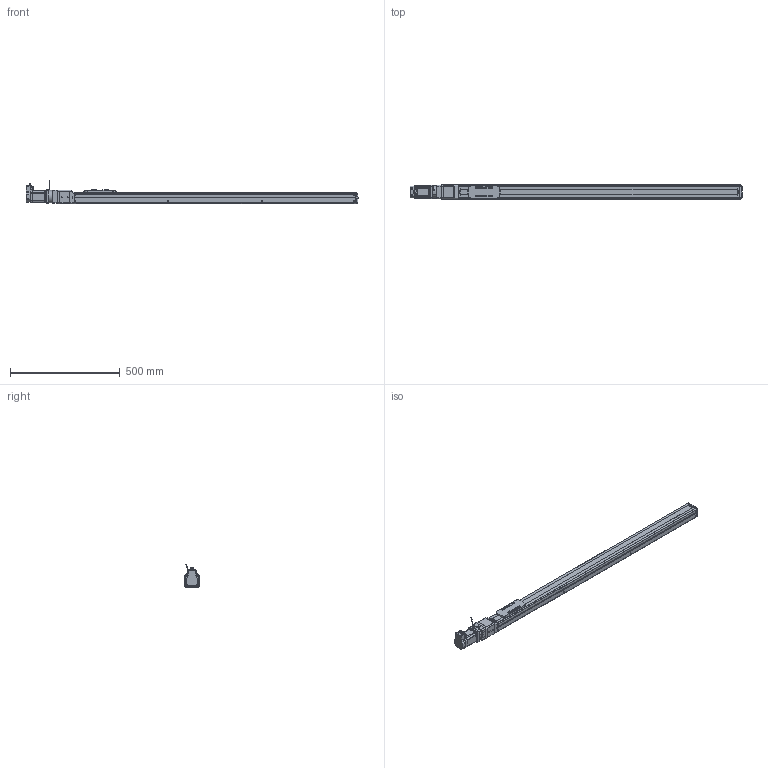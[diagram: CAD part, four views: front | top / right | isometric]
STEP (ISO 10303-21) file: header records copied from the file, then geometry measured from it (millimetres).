
FILE_DESCRIPTION(('FreeCAD Model'),'2;1');
FILE_NAME('Open CASCADE Shape Model','2023-08-03T16:41:48',('Author'),( ''),'Open CASCADE STEP processor 7.5','FreeCAD','Unknown');
FILE_SCHEMA(('AUTOMOTIVE_DESIGN { 1 0 10303 214 1 1 1 1 }'));
Length unit declared in the file: millimetre
Products named in the file (21): RMJ1211_BRK; Shapes; Shapes001; Shapes002; Shapes003; Shapes004; Shapes005; Shapes006; Shapes007; Shapes008; Shapes009; Shapes010; Shapes011; Shapes012; Body; BXW-03-10H-8_STEP; Body001; KSF6-20-1050-0-A0(0); KSF6---(Cover); KSF6-10-0050---(slider); KSF6-20-01050-A0 (01050A0No0)---(body)
Assembly tree (20 placements, depth 3):
  RMJ1211_BRK
    Shapes
    Shapes001
    Shapes002
    Shapes003
    Shapes004
    Shapes005
    Shapes006
    Shapes007
    Shapes008
    Shapes009
    Shapes010
    Shapes011
    Shapes012
    Body
    BXW-03-10H-8_STEP
    Body001
    KSF6-20-1050-0-A0(0)
      KSF6---(Cover)
      KSF6-10-0050---(slider)
      KSF6-20-01050-A0 (01050A0No0)---(body)
Bounding box: 1510.47 x 66.4 x 107.78 mm (x, y, z)
Volume: 4673522.7 mm3; surface area: 506814.5 mm2
Topology: 19 solids, 19 shells, 1914 faces, 5072 edges, 3327 vertices
Faces by surface type: plane 1263, cylinder 501, cone 91, bspline 28, torus 27, revolution 4
Full cylindrical faces by diameter (mm): 2.113 x8, 2.6 x4, 3 x5, 3.242 x5, 4.134 x4, 4.2 x7, 4.3 x1, 4.5 x2, 5 x1, 5.5 x20, 6.5 x4, 7.5 x4, 9 x1, 9.5 x14, 12 x1, 15.5 x1, 17 x1, 38.1 x1, 38.2 x1, 44 x1, 50 x2, 56.2 x1
Entity records: 136185 total; most frequent: CARTESIAN_POINT 31634, DIRECTION 19283, LINE 12474, VECTOR 12474, ORIENTED_EDGE 10096, PCURVE 10096, DEFINITIONAL_REPRESENTATION 10096, EDGE_CURVE 5048
